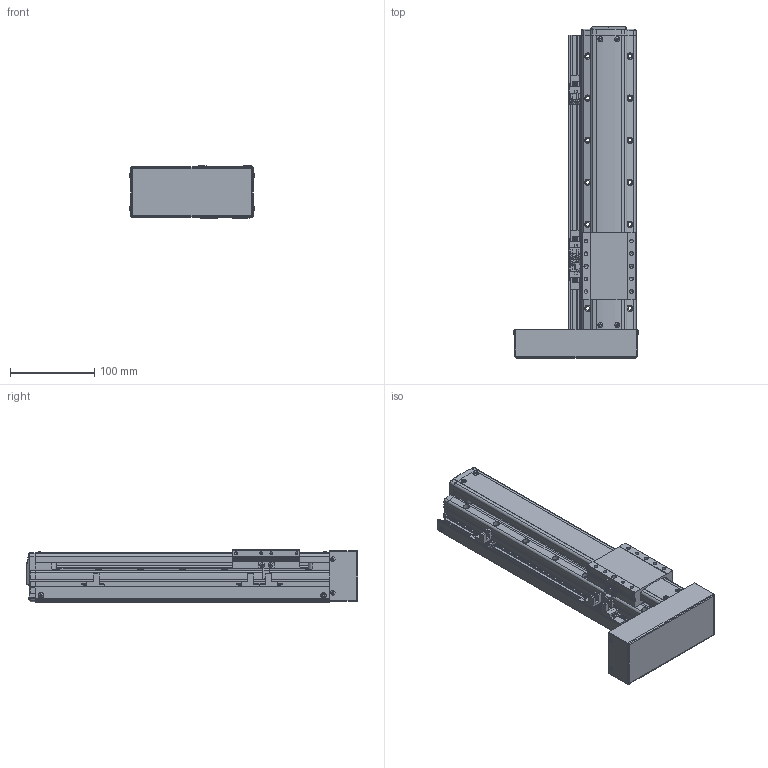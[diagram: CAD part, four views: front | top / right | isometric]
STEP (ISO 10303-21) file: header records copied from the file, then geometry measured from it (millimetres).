
FILE_DESCRIPTION(('STEP AP214'),'1');
FILE_NAME('Z:/Web/3D/PSA65/STP/PSA65-200 (3D)/PSA65ㅁㅁ-200PL+3SL.stp','2014-06-25T03:27:32',(' '),(' '),'Spatial InterOp 3D',' ',' ');
FILE_SCHEMA(('automotive_design'));
Length unit declared in the file: millimetre
Products named in the file (67): SLIDE; RRCV-PA060; 1; 2; 3; 4; 5; 6; 7; 8; 9; 10; 11; 12; 13; 14; 15; 16; 17; 18; 19; 20; 21; 22; 23; 24; 25; 26; 27; 28; 29; 30; 31; 스크루 : Round - M3.0 x 8.0; RN8 x 0.75; SHAFT-SAN65; BASE; 스크루 : Round - M3.0 x 6.0; BTCV-SAN65; BHCS M3 X 6L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
Bounding box: 149.13 x 394.8 x 62 mm (x, y, z)
Volume: 1443944.9 mm3; surface area: 249651.8 mm2
Topology: 67 solids, 67 shells, 2220 faces, 5847 edges, 3762 vertices
Faces by surface type: plane 1387, cylinder 561, cone 187, sphere 50, bspline 19, torus 16
Entity records: 87926 total; most frequent: CARTESIAN_POINT 13517, DIRECTION 11754, ORIENTED_EDGE 11466, EDGE_CURVE 5733, LINE 4076, VECTOR 4076, AXIS2_PLACEMENT_3D 3839, VERTEX_POINT 3762
